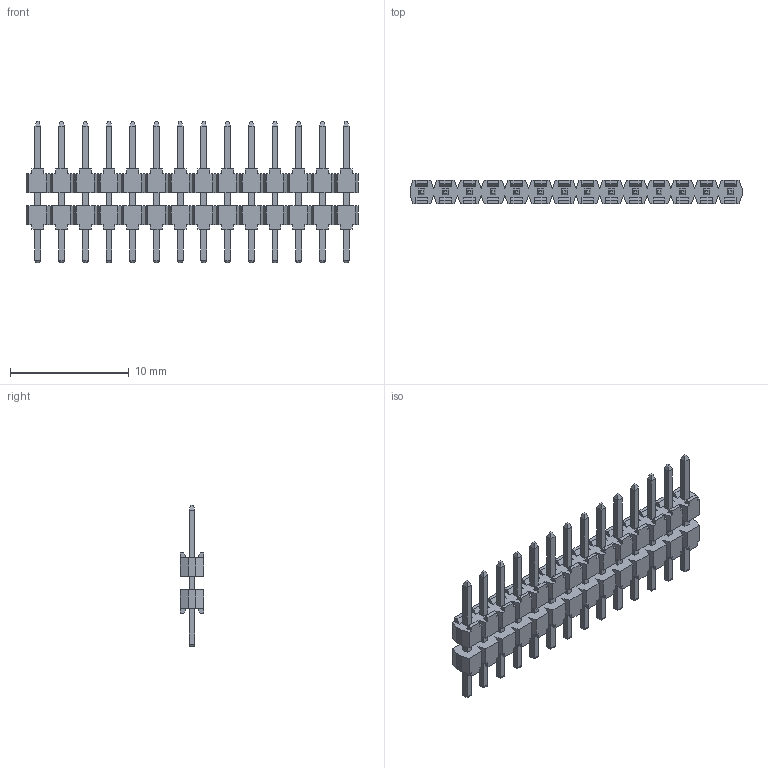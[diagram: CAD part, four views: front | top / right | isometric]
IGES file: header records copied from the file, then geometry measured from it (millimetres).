
Global section: file name: N:\GOLF_VI_2mm_UGII\9514XX_901XX06_AR\951414-9011106-AR.igs; native system: NX V3.0; preprocessor: UGS NX IGES V4.0; date: 20070314.113404; units: millimetre
Bounding box: 28 x 2 x 11.9 mm (x, y, z)
Surface area: 756.8 mm2 (no closed solid volume)
Topology: 0 solids, 0 shells, 708 faces, 3833 edges, 3833 vertices
Faces by surface type: bspline 708
